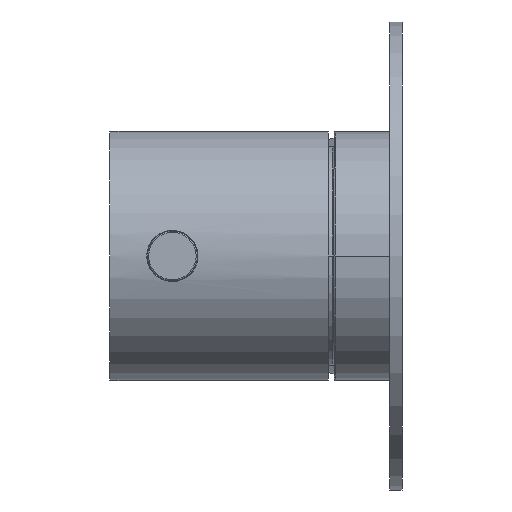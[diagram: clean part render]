
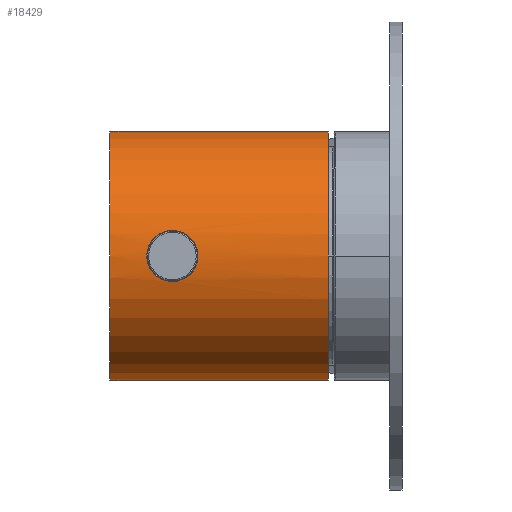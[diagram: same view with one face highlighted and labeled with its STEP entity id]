
A CAD part, left-side view. The second image highlights one B-rep face of the part: STEP entity #18429.
In plain terms, the highlighted cylindrical face has radius 20 mm (diameter 40 mm), a partial arc.
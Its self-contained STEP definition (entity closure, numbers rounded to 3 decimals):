
#17338=CARTESIAN_POINT('',(-110.,-0.2,0.));
#17339=DIRECTION('',(0.,1.,0.));
#17340=DIRECTION('',(0.,0.,-1.));
#17341=AXIS2_PLACEMENT_3D('',#17338,#17339,#17340);
#17353=DIRECTION('',(0.,1.,0.));
#17354=VECTOR('',#17353,35.);
#17355=CARTESIAN_POINT('',(-110.,-0.2,20.));
#17356=LINE('',#17355,#17354);
#17431=DIRECTION('',(0.,1.,0.));
#17432=VECTOR('',#17431,35.);
#17433=CARTESIAN_POINT('',(-110.,-0.2,-20.));
#17434=LINE('',#17433,#17432);
#17435=CARTESIAN_POINT('',(-130.,28.9,0.));
#17436=CARTESIAN_POINT('',(-130.,28.9,0.118));
#17437=CARTESIAN_POINT('',(-129.998,28.89,
0.354));
#17438=CARTESIAN_POINT('',(-129.989,28.844,
0.707));
#17439=CARTESIAN_POINT('',(-129.973,28.767,
1.055));
#17440=CARTESIAN_POINT('',(-129.952,28.66,
1.396));
#17441=CARTESIAN_POINT('',(-129.926,28.524,
1.727));
#17442=CARTESIAN_POINT('',(-129.896,28.359,
2.046));
#17443=CARTESIAN_POINT('',(-129.862,28.166,
2.35));
#17444=CARTESIAN_POINT('',(-129.826,27.947,
2.637));
#17445=CARTESIAN_POINT('',(-129.789,27.703,
2.903));
#17446=CARTESIAN_POINT('',(-129.751,27.436,
3.147));
#17447=CARTESIAN_POINT('',(-129.715,27.15,
3.366));
#17448=CARTESIAN_POINT('',(-129.681,26.846,
3.559));
#17449=CARTESIAN_POINT('',(-129.65,26.527,
3.724));
#17450=CARTESIAN_POINT('',(-129.624,26.196,
3.861));
#17451=CARTESIAN_POINT('',(-129.603,25.855,
3.967));
#17452=CARTESIAN_POINT('',(-129.587,25.508,
4.044));
#17453=CARTESIAN_POINT('',(-129.577,25.155,
4.09));
#17454=CARTESIAN_POINT('',(-129.574,24.8,
4.105));
#17455=CARTESIAN_POINT('',(-129.577,24.445,
4.09));
#17456=CARTESIAN_POINT('',(-129.587,24.093,
4.044));
#17457=CARTESIAN_POINT('',(-129.603,23.746,
3.967));
#17458=CARTESIAN_POINT('',(-129.624,23.404,
3.861));
#17459=CARTESIAN_POINT('',(-129.65,23.074,
3.725));
#17460=CARTESIAN_POINT('',(-129.681,22.754,
3.559));
#17461=CARTESIAN_POINT('',(-129.715,22.45,
3.366));
#17462=CARTESIAN_POINT('',(-129.751,22.164,
3.147));
#17463=CARTESIAN_POINT('',(-129.789,21.897,
2.903));
#17464=CARTESIAN_POINT('',(-129.826,21.653,
2.637));
#17465=CARTESIAN_POINT('',(-129.862,21.434,
2.35));
#17466=CARTESIAN_POINT('',(-129.896,21.241,
2.046));
#17467=CARTESIAN_POINT('',(-129.926,21.076,
1.727));
#17468=CARTESIAN_POINT('',(-129.952,20.94,
1.396));
#17469=CARTESIAN_POINT('',(-129.973,20.833,
1.055));
#17470=CARTESIAN_POINT('',(-129.989,20.756,
0.708));
#17471=CARTESIAN_POINT('',(-129.998,20.71,
0.354));
#17472=CARTESIAN_POINT('',(-130.,20.7,0.118));
#17473=CARTESIAN_POINT('',(-130.,20.7,0.));
#17475=CARTESIAN_POINT('',(-130.,20.7,0.));
#17476=CARTESIAN_POINT('',(-130.,20.7,-0.118));
#17477=CARTESIAN_POINT('',(-129.998,20.71,
-0.354));
#17478=CARTESIAN_POINT('',(-129.989,20.756,
-0.707));
#17479=CARTESIAN_POINT('',(-129.973,20.833,
-1.055));
#17480=CARTESIAN_POINT('',(-129.952,20.94,
-1.396));
#17481=CARTESIAN_POINT('',(-129.926,21.076,
-1.727));
#17482=CARTESIAN_POINT('',(-129.896,21.241,
-2.046));
#17483=CARTESIAN_POINT('',(-129.862,21.434,
-2.35));
#17484=CARTESIAN_POINT('',(-129.826,21.653,
-2.637));
#17485=CARTESIAN_POINT('',(-129.789,21.897,
-2.903));
#17486=CARTESIAN_POINT('',(-129.751,22.164,
-3.147));
#17487=CARTESIAN_POINT('',(-129.715,22.45,
-3.366));
#17488=CARTESIAN_POINT('',(-129.681,22.754,
-3.559));
#17489=CARTESIAN_POINT('',(-129.65,23.073,
-3.724));
#17490=CARTESIAN_POINT('',(-129.624,23.404,
-3.861));
#17491=CARTESIAN_POINT('',(-129.603,23.745,
-3.967));
#17492=CARTESIAN_POINT('',(-129.587,24.092,
-4.044));
#17493=CARTESIAN_POINT('',(-129.577,24.445,
-4.09));
#17494=CARTESIAN_POINT('',(-129.574,24.8,
-4.105));
#17495=CARTESIAN_POINT('',(-129.577,25.155,
-4.09));
#17496=CARTESIAN_POINT('',(-129.587,25.507,
-4.044));
#17497=CARTESIAN_POINT('',(-129.603,25.854,
-3.967));
#17498=CARTESIAN_POINT('',(-129.624,26.196,
-3.861));
#17499=CARTESIAN_POINT('',(-129.65,26.526,
-3.725));
#17500=CARTESIAN_POINT('',(-129.681,26.846,
-3.559));
#17501=CARTESIAN_POINT('',(-129.715,27.15,
-3.366));
#17502=CARTESIAN_POINT('',(-129.751,27.436,
-3.147));
#17503=CARTESIAN_POINT('',(-129.789,27.703,
-2.903));
#17504=CARTESIAN_POINT('',(-129.826,27.947,
-2.637));
#17505=CARTESIAN_POINT('',(-129.862,28.166,
-2.35));
#17506=CARTESIAN_POINT('',(-129.896,28.359,
-2.046));
#17507=CARTESIAN_POINT('',(-129.926,28.524,
-1.727));
#17508=CARTESIAN_POINT('',(-129.952,28.66,
-1.396));
#17509=CARTESIAN_POINT('',(-129.973,28.767,
-1.055));
#17510=CARTESIAN_POINT('',(-129.989,28.844,
-0.708));
#17511=CARTESIAN_POINT('',(-129.998,28.89,
-0.354));
#17512=CARTESIAN_POINT('',(-130.,28.9,-0.118));
#17513=CARTESIAN_POINT('',(-130.,28.9,0.));
#17520=CARTESIAN_POINT('',(-110.,34.8,0.));
#17521=DIRECTION('',(0.,1.,0.));
#17522=DIRECTION('',(0.,0.,-1.));
#17523=AXIS2_PLACEMENT_3D('',#17520,#17521,#17522);
#18103=CARTESIAN_POINT('',(-110.,-0.2,20.));
#18104=CARTESIAN_POINT('',(-110.,-0.2,-20.));
#18105=VERTEX_POINT('',#18103);
#18106=VERTEX_POINT('',#18104);
#18107=CARTESIAN_POINT('',(-110.,34.8,20.));
#18108=CARTESIAN_POINT('',(-110.,34.8,-20.));
#18109=VERTEX_POINT('',#18107);
#18110=VERTEX_POINT('',#18108);
#18115=VERTEX_POINT('',#17435);
#18116=VERTEX_POINT('',#17473);
#18411=CARTESIAN_POINT('',(-110.,-0.2,0.));
#18412=DIRECTION('',(0.,1.,0.));
#18413=DIRECTION('',(0.,0.,1.));
#18414=AXIS2_PLACEMENT_3D('',#18411,#18412,#18413);
#18415=CYLINDRICAL_SURFACE('',#18414,20.);
#18416=ORIENTED_EDGE('',*,*,#18380,.F.);
#18417=ORIENTED_EDGE('',*,*,#18400,.T.);
#18419=ORIENTED_EDGE('',*,*,#18418,.T.);
#18420=ORIENTED_EDGE('',*,*,#18396,.F.);
#18421=EDGE_LOOP('',(#18416,#18417,#18419,#18420));
#18422=FACE_OUTER_BOUND('',#18421,.F.);
#18424=ORIENTED_EDGE('',*,*,#18423,.F.);
#18426=ORIENTED_EDGE('',*,*,#18425,.F.);
#18427=EDGE_LOOP('',(#18424,#18426));
#18428=FACE_BOUND('',#18427,.F.);
#18429=ADVANCED_FACE('',(#18422,#18428),#18415,.T.);
#17342=CIRCLE('',#17341,20.);
#17474=B_SPLINE_CURVE_WITH_KNOTS('',3,(#17435,#17436,#17437,#17438,#17439,
#17440,#17441,#17442,#17443,#17444,#17445,#17446,#17447,#17448,#17449,#17450,
#17451,#17452,#17453,#17454,#17455,#17456,#17457,#17458,#17459,#17460,#17461,
#17462,#17463,#17464,#17465,#17466,#17467,#17468,#17469,#17470,#17471,#17472,
#17473),.UNSPECIFIED.,.F.,.F.,(4,1,1,1,1,1,1,1,1,1,1,1,1,1,1,1,1,1,1,1,1,1,1,1,
1,1,1,1,1,1,1,1,1,1,1,1,4),(0.,0.028,0.056,
0.083,0.111,0.139,0.167,
0.194,0.222,0.25,0.278,0.306,
0.333,0.361,0.389,0.417,
0.444,0.472,0.5,0.528,0.556,
0.583,0.611,0.639,0.667,
0.694,0.722,0.75,0.778,0.806,
0.833,0.861,0.889,0.917,
0.944,0.972,1.),.UNSPECIFIED.);
#17514=B_SPLINE_CURVE_WITH_KNOTS('',3,(#17475,#17476,#17477,#17478,#17479,
#17480,#17481,#17482,#17483,#17484,#17485,#17486,#17487,#17488,#17489,#17490,
#17491,#17492,#17493,#17494,#17495,#17496,#17497,#17498,#17499,#17500,#17501,
#17502,#17503,#17504,#17505,#17506,#17507,#17508,#17509,#17510,#17511,#17512,
#17513),.UNSPECIFIED.,.F.,.F.,(4,1,1,1,1,1,1,1,1,1,1,1,1,1,1,1,1,1,1,1,1,1,1,1,
1,1,1,1,1,1,1,1,1,1,1,1,4),(0.,0.028,0.056,
0.083,0.111,0.139,0.167,
0.194,0.222,0.25,0.278,0.306,
0.333,0.361,0.389,0.417,
0.444,0.472,0.5,0.528,0.556,
0.583,0.611,0.639,0.667,
0.694,0.722,0.75,0.778,0.806,
0.833,0.861,0.889,0.917,
0.944,0.972,1.),.UNSPECIFIED.);
#17524=CIRCLE('',#17523,20.);
#18380=EDGE_CURVE('',#18106,#18105,#17342,.T.);
#18396=EDGE_CURVE('',#18105,#18109,#17356,.T.);
#18400=EDGE_CURVE('',#18106,#18110,#17434,.T.);
#18418=EDGE_CURVE('',#18110,#18109,#17524,.T.);
#18423=EDGE_CURVE('',#18115,#18116,#17474,.T.);
#18425=EDGE_CURVE('',#18116,#18115,#17514,.T.);
